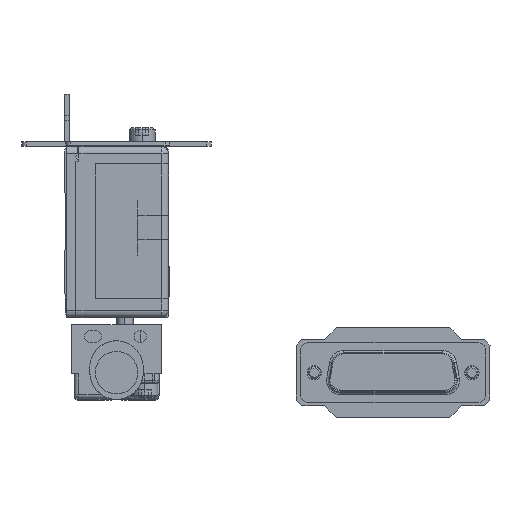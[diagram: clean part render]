
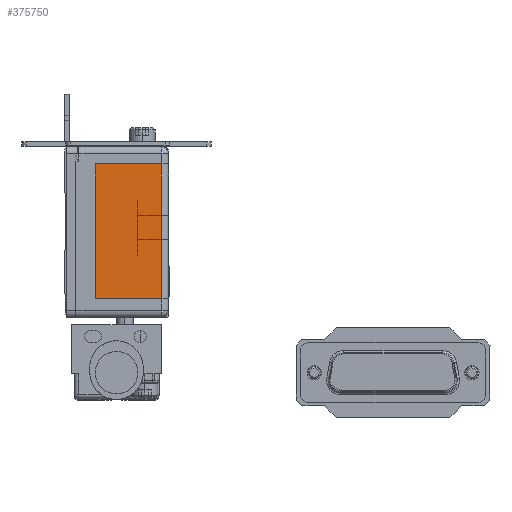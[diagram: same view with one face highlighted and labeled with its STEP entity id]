
A CAD part, left-side view. The second image highlights one B-rep face of the part: STEP entity #375750.
In plain terms, the highlighted planar face has unit normal (-1, 0, 0).
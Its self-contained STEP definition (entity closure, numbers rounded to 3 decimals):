
#375360=CARTESIAN_POINT('',(437.3,3.267,5.907));
#375370=DIRECTION('',(-1.,0.,0.));
#375380=DIRECTION('',(0.,1.,0.));
#375390=AXIS2_PLACEMENT_3D('',#375360,#375370,#375380);
#375400=PLANE('',#375390);
#375410=CARTESIAN_POINT('',(437.3,0.,4.)
);
#375420=DIRECTION('',(0.,1.,0.));
#375430=VECTOR('',#375420,1.);
#375440=LINE('',#375410,#375430);
#375450=CARTESIAN_POINT('',(437.3,1.5,4.));
#375460=VERTEX_POINT('',#375450);
#375470=CARTESIAN_POINT('',(437.3,15.5,4.));
#375480=VERTEX_POINT('',#375470);
#375490=EDGE_CURVE('',#375460,#375480,#375440,.T.);
#375500=ORIENTED_EDGE('',*,*,#375490,.F.);
#375510=CARTESIAN_POINT('',(437.3,15.5,4.));
#375520=DIRECTION('',(0.,0.,1.));
#375530=VECTOR('',#375520,1.);
#375540=LINE('',#375510,#375530);
#375550=CARTESIAN_POINT('',(437.3,15.5,32.5));
#375560=VERTEX_POINT('',#375550);
#375570=EDGE_CURVE('',#375480,#375560,#375540,.T.);
#375580=ORIENTED_EDGE('',*,*,#375570,.F.);
#375590=CARTESIAN_POINT('',(437.3,15.5,32.5));
#375600=DIRECTION('',(0.,-1.,0.));
#375610=VECTOR('',#375600,1.);
#375620=LINE('',#375590,#375610);
#375630=CARTESIAN_POINT('',(437.3,1.5,32.5));
#375640=VERTEX_POINT('',#375630);
#375650=EDGE_CURVE('',#375560,#375640,#375620,.T.);
#375660=ORIENTED_EDGE('',*,*,#375650,.F.);
#375670=CARTESIAN_POINT('',(437.3,1.5,36.5));
#375680=DIRECTION('',(0.,0.,-1.));
#375690=VECTOR('',#375680,1.);
#375700=LINE('',#375670,#375690);
#375710=EDGE_CURVE('',#375640,#375460,#375700,.T.);
#375720=ORIENTED_EDGE('',*,*,#375710,.F.);
#375730=EDGE_LOOP('',(#375720,#375660,#375580,#375500));
#375740=FACE_OUTER_BOUND('',#375730,.T.);
#375750=ADVANCED_FACE('',(#375740),#375400,.T.);
